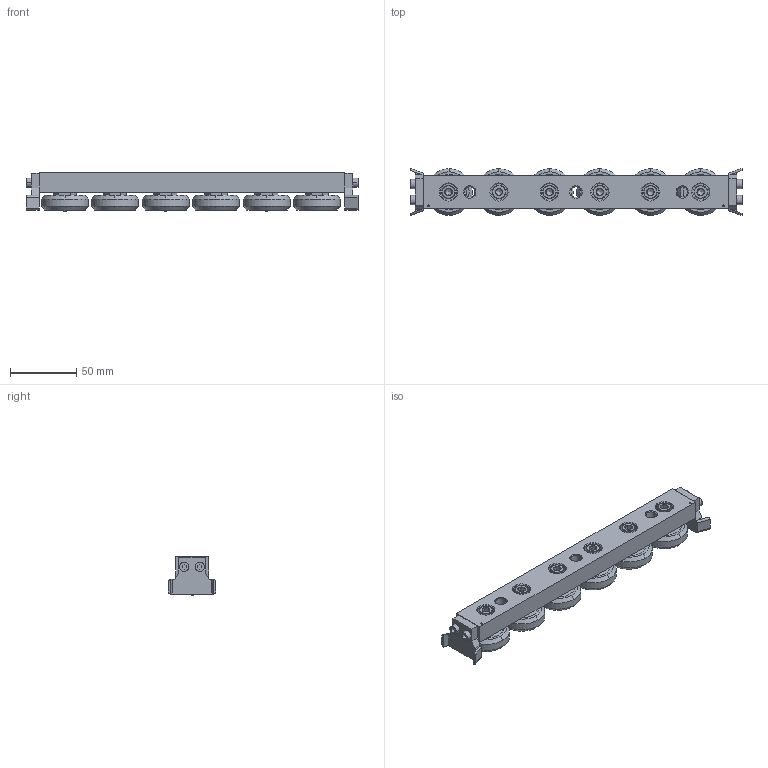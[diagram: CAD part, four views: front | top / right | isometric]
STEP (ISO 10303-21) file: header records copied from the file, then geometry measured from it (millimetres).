
FILE_DESCRIPTION (( 'STEP AP203' ), '1' );
FILE_NAME ('L1943.CSW43-230-2ZUA.step', '2019-03-13T08:18:40', ( '' ), ( '' ), 'SwSTEP 2.0', 'SolidWorks 2017', '' );
FILE_SCHEMA (( 'CONFIG_CONTROL_DESIGN' ));
Length unit declared in the file: millimetre
Products named in the file (6): Part8; Part1_L1943.CSW43-230-2ZUA; Part3; Part7; Part2; L1943.CSW43-230-2ZUA
Assembly tree (15 placements, depth 2):
  L1943.CSW43-230-2ZUA
    Part1_L1943.CSW43-230-2ZUA
    Part8  x6
    Part2  x3
    Part3  x3
    Part7  x2
Bounding box: 250 x 35.4 x 28.88 mm (x, y, z)
Volume: 145450.1 mm3; surface area: 49679.3 mm2
Topology: 15 solids, 15 shells, 565 faces, 1248 edges, 758 vertices
Faces by surface type: plane 248, cone 190, cylinder 106, torus 12, bspline 9
Entity records: 7812 total; most frequent: CARTESIAN_POINT 1416, DIRECTION 1239, ORIENTED_EDGE 1058, EDGE_CURVE 529, AXIS2_PLACEMENT_3D 480, VERTEX_POINT 333, EDGE_LOOP 290, LINE 279
